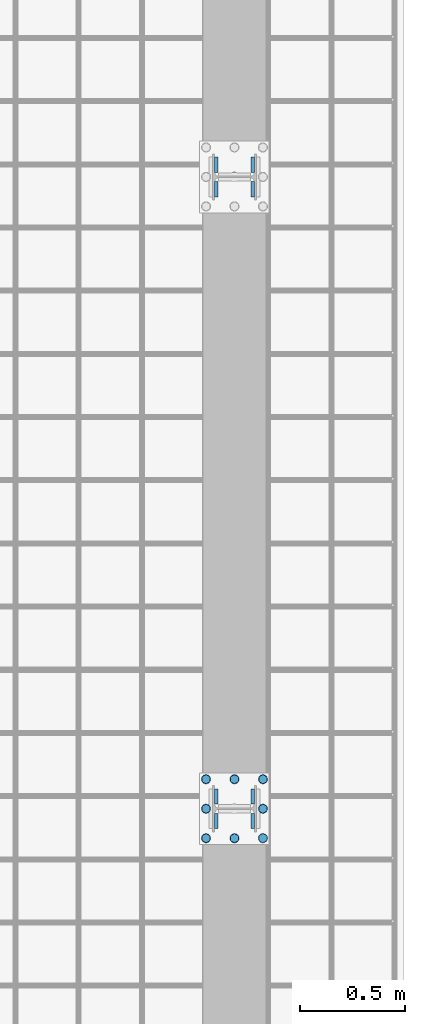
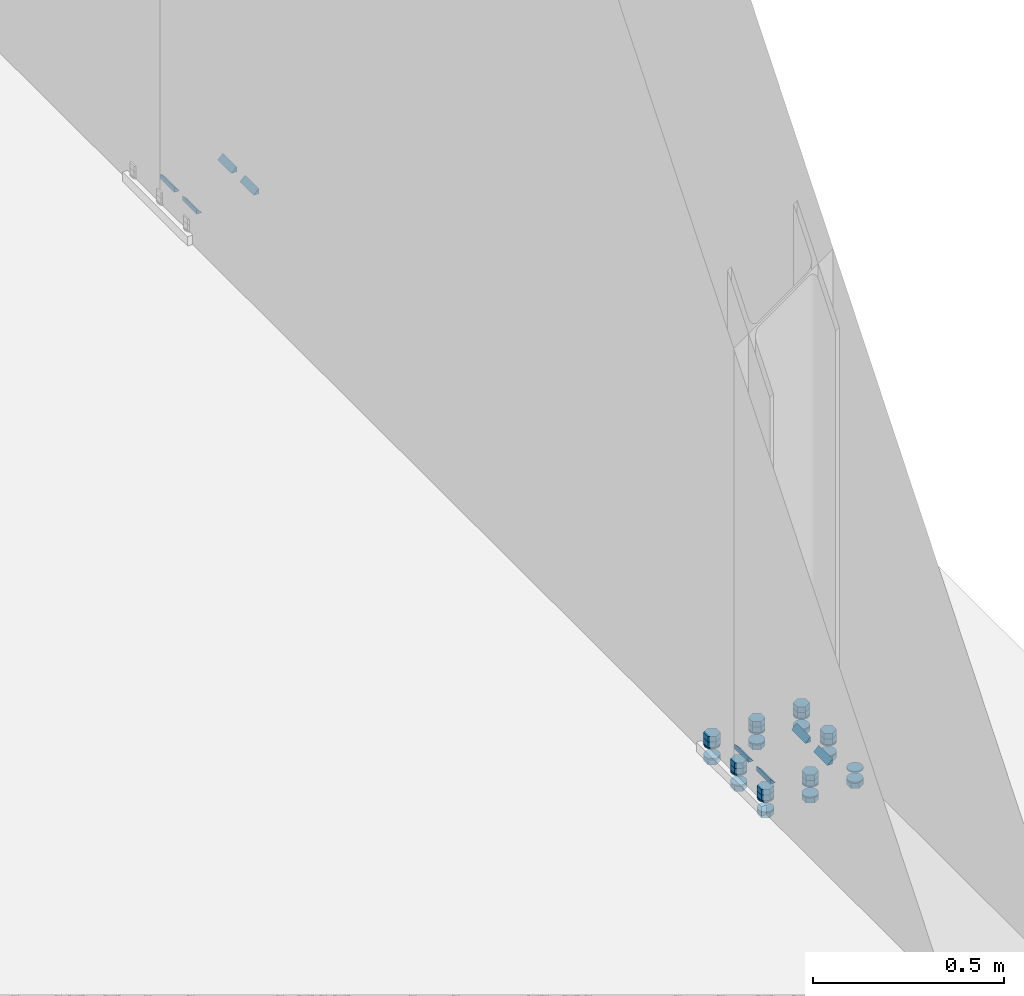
# One storey, part 17 of 29: 38 mechanical fasteners, 12 fasteners.
"""IFC4 building model written with IfcOpenShell, lengths in metres."""

import ifcopenshell
import ifcopenshell.guid

model = None  # the IFC model being written
_history = None  # IfcOwnerHistory: only IFC2X3 demands one
_inside = {}  # id of a spatial element -> (the spatial element, [elements in it])
_under = {}  # id of a project, library or spatial element -> (it, [spatial elements below it])
_declared = {}  # id of a project -> (the project, [libraries it declares])
_typed = {}  # id of a type object -> (the type object, [elements of that type])
_made_of = {}  # id of a material, layer set ... -> (it, [elements and type objects made of it])


def new_model(schema):
    """Start an empty IFC model of exactly this schema.

    Asked for "IFC4X3", IfcOpenShell would pick the latest addendum, in which some entities
    have other attributes; the version numbers below select the first issue.
    IFC2X3 requires an IfcOwnerHistory on every rooted entity: one is made here for all.
    """
    global model, _history
    if schema == "IFC4X3":
        model = ifcopenshell.file(schema_version=(4, 3, 0, 0))
    else:
        model = ifcopenshell.file(schema=schema)
    _inside.clear()
    _under.clear()
    _declared.clear()
    _typed.clear()
    _made_of.clear()
    _history = None
    if model.schema == "IFC2X3":
        org = make("IfcOrganization", Name="unknown")
        user = make(
            "IfcPersonAndOrganization",
            ThePerson=make("IfcPerson", FamilyName="unknown"),
            TheOrganization=org,
        )
        app = make(
            "IfcApplication",
            ApplicationDeveloper=org,
            Version="unknown",
            ApplicationFullName="unknown",
            ApplicationIdentifier="unknown",
        )
        _history = make(
            "IfcOwnerHistory",
            OwningUser=user,
            OwningApplication=app,
            ChangeAction="ADDED",
            CreationDate=0,
        )
    return model


def make(cls, **values):
    """One entity of the class cls with the attributes given. An attribute that is None is left unset."""
    return model.create_entity(
        cls, **{name: value for name, value in values.items() if value is not None}
    )


def rooted(cls, **values):
    """An entity with a GlobalId (a new one), such as an element, a storey or a relation."""
    return make(cls, GlobalId=ifcopenshell.guid.new(), OwnerHistory=_history, **values)


def si_unit(unit_type, name, prefix=None):
    """IfcSIUnit, for example si_unit("LENGTHUNIT", "METRE", prefix="MILLI")."""
    return make("IfcSIUnit", UnitType=unit_type, Prefix=prefix, Name=name)


def assignment(units):
    """IfcUnitAssignment: the units of a project."""
    return None if units is None else make("IfcUnitAssignment", Units=units)


def point(xyz):
    """IfcCartesianPoint."""
    return None if xyz is None else make("IfcCartesianPoint", Coordinates=xyz)


def direction(xyz):
    """IfcDirection."""
    return None if xyz is None else make("IfcDirection", DirectionRatios=xyz)


def frame(location, z_axis=None, x_axis=None):
    """IfcAxis2Placement3D, a coordinate frame: its origin and axes. An axis left out is left unset."""
    return make(
        "IfcAxis2Placement3D",
        Location=point(location),
        Axis=direction(z_axis),
        RefDirection=direction(x_axis),
    )


def origin_with_axes():
    """The frame at (0, 0, 0) with the z axis (0, 0, 1) and the x axis (1, 0, 0) written out."""
    return frame((0.0, 0.0, 0.0), z_axis=(0.0, 0.0, 1.0), x_axis=(1.0, 0.0, 0.0))


def place(relative_to, where):
    """IfcLocalPlacement: puts the frame where relative to a parent placement (None: the world)."""
    return make(
        "IfcLocalPlacement", PlacementRelTo=relative_to, RelativePlacement=where
    )


def context(
    kind, dimensions, precision=None, world=None, true_north=None, identifier=None
):
    """IfcGeometricRepresentationContext, for example the 3D "Model" context."""
    return make(
        "IfcGeometricRepresentationContext",
        ContextIdentifier=identifier,
        ContextType=kind,
        CoordinateSpaceDimension=dimensions,
        Precision=precision,
        WorldCoordinateSystem=world,
        TrueNorth=true_north,
    )


def project(units=None, contexts=None):
    """IfcProject with its units and contexts."""
    return rooted(
        "IfcProject",
        Name="project",
        RepresentationContexts=contexts,
        UnitsInContext=assignment(units),
    )


def spatial(cls, under=None, at=None, **own):
    """A site, building, storey or space (cls), placed at a placement, below another one or the project."""
    s = rooted(cls, ObjectPlacement=at, **own)
    if under is not None:
        _under.setdefault(under.id(), (under, []))[1].append(s)
    return s


def polyline(points):
    """IfcPolyline through the points."""
    return make("IfcPolyline", Points=[point(p) for p in points])


def outline(outer, holes=None, kind="AREA"):
    """IfcArbitraryClosedProfileDef: a profile drawn as a closed curve; with holes, ...WithVoids."""
    if holes is None:
        return make("IfcArbitraryClosedProfileDef", ProfileType=kind, OuterCurve=outer)
    return make(
        "IfcArbitraryProfileDefWithVoids",
        ProfileType=kind,
        OuterCurve=outer,
        InnerCurves=holes,
    )


def extrude(swept, where, along, depth):
    """IfcExtrudedAreaSolid: the profile swept, set in the frame where, extruded along a direction by depth."""
    return make(
        "IfcExtrudedAreaSolid",
        SweptArea=swept,
        Position=where,
        ExtrudedDirection=direction(along),
        Depth=depth,
    )


def shape(context_of_items, identifier, shape_type, items):
    """IfcShapeRepresentation: the items that make up one representation, for example the "Body"."""
    return make(
        "IfcShapeRepresentation",
        ContextOfItems=context_of_items,
        RepresentationIdentifier=identifier,
        RepresentationType=shape_type,
        Items=items,
    )


def made_of(thing, what):
    """Note that an element or type object is made of a material, layer set ...; save() writes the relation."""
    if what is not None:
        _made_of.setdefault(what.id(), (what, []))[1].append(thing)
    return thing


def type_object(cls, material=None, **own):
    """A type object (cls), such as IfcWallType, which elements share."""
    return made_of(rooted(cls, **own), material)


def element(
    cls,
    number,
    at=None,
    inside=None,
    cuts=None,
    type_object=None,
    material=None,
    context=None,
    identifier="Body",
    shape_type=None,
    held_by="IfcProductDefinitionShape",
    body=None,
    shapes=None,
    **own,
):
    """One element of the class cls, such as IfcWall. Its Tag is "e" and its number.

    at: its placement. inside: the storey or other place that contains it. cuts: it is an
    opening in that element (IfcRelVoidsElement). A single representation is given by context,
    identifier, shape_type and body (its items); several are given by shapes. held_by: the class
    of the entity that holds the representations. save() writes the other relations.
    """
    e = rooted(cls, Tag="e%d" % number, ObjectPlacement=at, **own)
    if body is not None:
        shapes = [shape(context, identifier, shape_type, body)]
    if shapes is not None:
        e.Representation = make(held_by, Representations=shapes)
    if inside is not None:
        _inside.setdefault(inside.id(), (inside, []))[1].append(e)
    if cuts is not None:
        rooted(
            "IfcRelVoidsElement", RelatingBuildingElement=cuts, RelatedOpeningElement=e
        )
    if type_object is not None:
        _typed.setdefault(type_object.id(), (type_object, []))[1].append(e)
    return made_of(e, material)


def aggregate(whole, parts):
    """IfcRelAggregates: a whole, such as a stair, and the parts it consists of."""
    return rooted("IfcRelAggregates", RelatingObject=whole, RelatedObjects=parts)


def save(model, path):
    """Write the relations noted so far, then the file.

    IfcRelAggregates (storeys below a building ...), IfcRelContainedInSpatialStructure (elements
    in a storey), IfcRelDefinesByType, IfcRelAssociatesMaterial and IfcRelDeclares: one each for
    every whole, place, type object, material and project.
    """
    for whole, parts in _under.values():
        aggregate(whole, parts)
    for where, things in _inside.values():
        rooted(
            "IfcRelContainedInSpatialStructure",
            RelatedElements=things,
            RelatingStructure=where,
        )
    for kind, things in _typed.values():
        rooted("IfcRelDefinesByType", RelatedObjects=things, RelatingType=kind)
    for what, things in _made_of.values():
        rooted("IfcRelAssociatesMaterial", RelatedObjects=things, RelatingMaterial=what)
    for by, libraries in _declared.values():
        rooted("IfcRelDeclares", RelatingContext=by, RelatedDefinitions=libraries)
    model.write(path)


model = new_model("IFC4")

# Units and contexts
model_context = context("Model", 3, precision=1e-05, world=origin_with_axes())
ifc_project = project(units=[si_unit("LENGTHUNIT", "METRE"), si_unit("AREAUNIT", "SQUARE_METRE"), si_unit("VOLUMEUNIT", "CUBIC_METRE"), si_unit("MASSUNIT", "GRAM", prefix="KILO"), si_unit("TIMEUNIT", "SECOND"), si_unit("PLANEANGLEUNIT", "RADIAN"), si_unit("SOLIDANGLEUNIT", "STERADIAN"), si_unit("THERMODYNAMICTEMPERATUREUNIT", "DEGREE_CELSIUS")], contexts=[model_context])

# Site, building, storey
placement_1 = place(None, origin_with_axes())
site = spatial("IfcSite", under=ifc_project, at=placement_1, Name="Italia", CompositionType="ELEMENT")
building = spatial("IfcBuilding", under=site, at=placement_1, Name="Capannone", CompositionType="ELEMENT")
storey = spatial("IfcBuildingStorey", under=building, at=placement_1, Name="Storey 0", CompositionType="ELEMENT", Elevation=0.0)

# Fasteners
fastener_type_1 = type_object("IfcFastenerType", Name="Collegamenti 0001_0101 0002_0102 0003_0103 0004_0104 0005_0105 0006_0106 0007_0107 0008_0108 0009_0109 0010_0110 0011_0111 0012_0112", PredefinedType="WELD")
placement_2 = place(placement_1, origin_with_axes())
fastener_1_placement = place(placement_2, origin_with_axes())
element("IfcFastener", 1, at=fastener_1_placement, inside=storey, type_object=fastener_type_1, Name="Collegamenti 0001_0101 0002_0102 0003_0103 0004_0104 0005_0105 0006_0106 0007_0107 0008_0108 0009_0109 0010_0110 0011_0111 0012_0112", context=model_context, shape_type="SweptSolid", body=[
    extrude(outline(polyline([(0.0, 0.0), (0.0156889, 0.0161734), (0.0156889, 0.0), (0.0, 0.0)])), frame((13.9216, 3.02145, 0.02995), z_axis=(0.0, 1.0, 0.0), x_axis=(-1.0, 0.0, 0.0)), (0.0, 0.0, 1.0), 0.0725999),
])
fastener_type_2 = type_object("IfcFastenerType", Name="Collegamenti 0001_0101 0002_0102 0003_0103 0004_0104 0005_0105 0006_0106 0007_0107 0008_0108 0009_0109 0010_0110 0011_0111 0012_0112", PredefinedType="WELD")
fastener_2_placement = place(placement_2, origin_with_axes())
element("IfcFastener", 2, at=fastener_2_placement, inside=storey, type_object=fastener_type_2, Name="Collegamenti 0001_0101 0002_0102 0003_0103 0004_0104 0005_0105 0006_0106 0007_0107 0008_0108 0009_0109 0010_0110 0011_0111 0012_0112", context=model_context, shape_type="SweptSolid", body=[
    extrude(outline(polyline([(0.0, 0.0), (0.0156889, 0.0161734), (0.0156889, 0.0), (0.0, 0.0)])), frame((14.0784, 3.09405, 0.02995), z_axis=(0.0, -1.0, 0.0), x_axis=(1.0, 0.0, 0.0)), (0.0, 0.0, 1.0), 0.0725999),
])
fastener_type_3 = type_object("IfcFastenerType", Name="Collegamenti 0001_0101 0002_0102 0003_0103 0004_0104 0005_0105 0006_0106 0007_0107 0008_0108 0009_0109 0010_0110 0011_0111 0012_0112", PredefinedType="WELD")
fastener_3_placement = place(placement_2, origin_with_axes())
element("IfcFastener", 3, at=fastener_3_placement, inside=storey, type_object=fastener_type_3, Name="Collegamenti 0001_0101 0002_0102 0003_0103 0004_0104 0005_0105 0006_0106 0007_0107 0008_0108 0009_0109 0010_0110 0011_0111 0012_0112", context=model_context, shape_type="SweptSolid", body=[
    extrude(outline(polyline([(0.0, 0.0), (0.0156889, 0.0161734), (0.0156889, 0.0), (0.0, 0.0)])), frame((14.0784, 2.97855, 0.02995), z_axis=(0.0, -1.0, 0.0), x_axis=(1.0, 0.0, 0.0)), (0.0, 0.0, 1.0), 0.0725999),
])
fastener_type_4 = type_object("IfcFastenerType", Name="Collegamenti 0001_0101 0002_0102 0003_0103 0004_0104 0005_0105 0006_0106 0007_0107 0008_0108 0009_0109 0010_0110 0011_0111 0012_0112", PredefinedType="WELD")
fastener_4_placement = place(placement_2, origin_with_axes())
element("IfcFastener", 4, at=fastener_4_placement, inside=storey, type_object=fastener_type_4, Name="Collegamenti 0001_0101 0002_0102 0003_0103 0004_0104 0005_0105 0006_0106 0007_0107 0008_0108 0009_0109 0010_0110 0011_0111 0012_0112", context=model_context, shape_type="SweptSolid", body=[
    extrude(outline(polyline([(0.0, 0.0), (0.0156889, 0.0161734), (0.0156889, 0.0), (0.0, 0.0)])), frame((13.9216, 2.90595, 0.02995), z_axis=(0.0, 1.0, 0.0), x_axis=(-1.0, 0.0, 0.0)), (0.0, 0.0, 1.0), 0.0725999),
])
fastener_type_5 = type_object("IfcFastenerType", Name="Collegamenti 0001_0101 0002_0102 0003_0103 0004_0104 0005_0105 0006_0106 0007_0107 0008_0108 0009_0109 0010_0110 0011_0111 0012_0112", PredefinedType="WELD")
fastener_5_placement = place(placement_2, origin_with_axes())
element("IfcFastener", 5, at=fastener_5_placement, inside=storey, type_object=fastener_type_5, Name="Collegamenti 0001_0101 0002_0102 0003_0103 0004_0104 0005_0105 0006_0106 0007_0107 0008_0108 0009_0109 0010_0110 0011_0111 0012_0112", context=model_context, shape_type="SweptSolid", body=[
    extrude(outline(polyline([(0.0, 0.0), (0.0156889, 0.0161734), (0.0156889, 0.0), (0.0, 0.0)])), frame((13.9216, 3.02145, 0.02995), z_axis=(0.0, 1.0, 0.0), x_axis=(-1.0, 0.0, 0.0)), (0.0, 0.0, 1.0), 0.0725999),
])
fastener_type_6 = type_object("IfcFastenerType", Name="Collegamenti 0001_0101 0002_0102 0003_0103 0004_0104 0005_0105 0006_0106 0007_0107 0008_0108 0009_0109 0010_0110 0011_0111 0012_0112", PredefinedType="WELD")
fastener_6_placement = place(placement_2, origin_with_axes())
element("IfcFastener", 6, at=fastener_6_placement, inside=storey, type_object=fastener_type_6, Name="Collegamenti 0001_0101 0002_0102 0003_0103 0004_0104 0005_0105 0006_0106 0007_0107 0008_0108 0009_0109 0010_0110 0011_0111 0012_0112", context=model_context, shape_type="SweptSolid", body=[
    extrude(outline(polyline([(0.0, 0.0), (0.0156889, 0.0161734), (0.0156889, 0.0), (0.0, 0.0)])), frame((14.0784, 3.09405, 0.02995), z_axis=(0.0, -1.0, 0.0), x_axis=(1.0, 0.0, 0.0)), (0.0, 0.0, 1.0), 0.0725999),
])
fastener_type_7 = type_object("IfcFastenerType", Name="Collegamenti 0001_0101 0002_0102 0003_0103 0004_0104 0005_0105 0006_0106 0007_0107 0008_0108 0009_0109 0010_0110 0011_0111 0012_0112", PredefinedType="WELD")
fastener_7_placement = place(placement_2, origin_with_axes())
element("IfcFastener", 7, at=fastener_7_placement, inside=storey, type_object=fastener_type_7, Name="Collegamenti 0001_0101 0002_0102 0003_0103 0004_0104 0005_0105 0006_0106 0007_0107 0008_0108 0009_0109 0010_0110 0011_0111 0012_0112", context=model_context, shape_type="SweptSolid", body=[
    extrude(outline(polyline([(0.0, 0.0), (0.0156889, 0.0161734), (0.0156889, 0.0), (0.0, 0.0)])), frame((14.0784, 2.97855, 0.02995), z_axis=(0.0, -1.0, 0.0), x_axis=(1.0, 0.0, 0.0)), (0.0, 0.0, 1.0), 0.0725999),
])
fastener_type_8 = type_object("IfcFastenerType", Name="Collegamenti 0001_0101 0002_0102 0003_0103 0004_0104 0005_0105 0006_0106 0007_0107 0008_0108 0009_0109 0010_0110 0011_0111 0012_0112", PredefinedType="WELD")
fastener_8_placement = place(placement_2, origin_with_axes())
element("IfcFastener", 8, at=fastener_8_placement, inside=storey, type_object=fastener_type_8, Name="Collegamenti 0001_0101 0002_0102 0003_0103 0004_0104 0005_0105 0006_0106 0007_0107 0008_0108 0009_0109 0010_0110 0011_0111 0012_0112", context=model_context, shape_type="SweptSolid", body=[
    extrude(outline(polyline([(0.0, 0.0), (0.0156889, 0.0161734), (0.0156889, 0.0), (0.0, 0.0)])), frame((13.9216, 2.90595, 0.02995), z_axis=(0.0, 1.0, 0.0), x_axis=(-1.0, 0.0, 0.0)), (0.0, 0.0, 1.0), 0.0725999),
])

# Mechanical fasteners
mechanical_fastener_type_1 = type_object("IfcMechanicalFastenerType", Name="Collegamenti 0001_0101 0002_0102 0003_0103 0004_0104 0005_0105 0006_0106 0007_0107 0008_0108 0009_0109 0010_0110 0011_0111 0012_0112", PredefinedType="BOLT")
mechanical_fastener_1_placement = place(placement_2, origin_with_axes())
element("IfcMechanicalFastener", 9, at=mechanical_fastener_1_placement, inside=storey, type_object=mechanical_fastener_type_1, Name="Collegamenti 0001_0101 0002_0102 0003_0103 0004_0104 0005_0105 0006_0106 0007_0107 0008_0108 0009_0109 0010_0110 0011_0111 0012_0112", NominalDiameter=0.0219999, context=model_context, shape_type="SweptSolid", body=[
    extrude(outline(polyline([(0.0, 0.0), (-0.0220001, 0.0), (-0.033, 0.0190525), (-0.0220001, 0.038105), (0.0, 0.038105), (0.0109999, 0.0190525), (0.0, 0.0)])), frame((14.1541, 2.871, -0.0216), z_axis=(0.0, 0.0, 1.0), x_axis=(0.0, 1.0, 0.0)), (0.0, 0.0, 1.0), 0.0176),
])
mechanical_fastener_type_2 = type_object("IfcMechanicalFastenerType", Name="Collegamenti 0001_0101 0002_0102 0003_0103 0004_0104 0005_0105 0006_0106 0007_0107 0008_0108 0009_0109 0010_0110 0011_0111 0012_0112", PredefinedType="BOLT")
mechanical_fastener_2_placement = place(placement_2, origin_with_axes())
element("IfcMechanicalFastener", 10, at=mechanical_fastener_2_placement, inside=storey, type_object=mechanical_fastener_type_2, Name="Collegamenti 0001_0101 0002_0102 0003_0103 0004_0104 0005_0105 0006_0106 0007_0107 0008_0108 0009_0109 0010_0110 0011_0111 0012_0112", NominalDiameter=0.044, context=model_context, shape_type="SweptSolid", body=[
    extrude(outline(polyline([(0.0, 0.0), (-0.000749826, -0.00569439), (-0.00294757, -0.0109997), (-0.00644374, -0.0155563), (-0.0110002, -0.0190525), (-0.0163062, -0.0212507), (-0.0220001, -0.0220003), (-0.027694, -0.0212507), (-0.033, -0.0190525), (-0.0375564, -0.0155563), (-0.0410526, -0.0109997), (-0.0432506, -0.00569439), (-0.0440001, 0.0), (-0.0432503, 0.00569439), (-0.0410526, 0.0109997), (-0.0375564, 0.0155563), (-0.033, 0.0190525), (-0.027694, 0.0212507), (-0.0220001, 0.0220003), (-0.0163062, 0.0212507), (-0.0110002, 0.0190525), (-0.00644374, 0.0155563), (-0.00294757, 0.0109997), (-0.000749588, 0.00569439), (0.0, 0.0)])), frame((14.135, 2.882, 0.03), z_axis=(0.0, 0.0, 1.0), x_axis=(0.0, 1.0, 0.0)), (0.0, 0.0, 1.0), 0.004),
])
mechanical_fastener_type_3 = type_object("IfcMechanicalFastenerType", Name="Collegamenti 0001_0101 0002_0102 0003_0103 0004_0104 0005_0105 0006_0106 0007_0107 0008_0108 0009_0109 0010_0110 0011_0111 0012_0112", PredefinedType="BOLT")
mechanical_fastener_3_placement = place(placement_2, origin_with_axes())
element("IfcMechanicalFastener", 11, at=mechanical_fastener_3_placement, inside=storey, type_object=mechanical_fastener_type_3, Name="Collegamenti 0001_0101 0002_0102 0003_0103 0004_0104 0005_0105 0006_0106 0007_0107 0008_0108 0009_0109 0010_0110 0011_0111 0012_0112", NominalDiameter=0.044, context=model_context, shape_type="SweptSolid", body=[
    extrude(outline(polyline([(0.0, 0.0), (-0.000749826, -0.00569439), (-0.00294757, -0.0109997), (-0.00644374, -0.0155563), (-0.0110002, -0.0190525), (-0.0163062, -0.0212507), (-0.0220001, -0.0220003), (-0.027694, -0.0212507), (-0.033, -0.0190525), (-0.0375564, -0.0155563), (-0.0410526, -0.0109997), (-0.0432506, -0.00569439), (-0.0440001, 0.0), (-0.0432503, 0.00569439), (-0.0410526, 0.0109997), (-0.0375564, 0.0155563), (-0.033, 0.0190525), (-0.027694, 0.0212507), (-0.0220001, 0.0220003), (-0.0163062, 0.0212507), (-0.0110002, 0.0190525), (-0.00644374, 0.0155563), (-0.00294757, 0.0109997), (-0.000749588, 0.00569439), (0.0, 0.0)])), frame((14.135, 2.882, -0.004), z_axis=(0.0, 0.0, 1.0), x_axis=(0.0, 1.0, 0.0)), (0.0, 0.0, 1.0), 0.004),
])
mechanical_fastener_type_4 = type_object("IfcMechanicalFastenerType", Name="Collegamenti 0001_0101 0002_0102 0003_0103 0004_0104 0005_0105 0006_0106 0007_0107 0008_0108 0009_0109 0010_0110 0011_0111 0012_0112", PredefinedType="BOLT")
mechanical_fastener_4_placement = place(placement_2, origin_with_axes())
element("IfcMechanicalFastener", 12, at=mechanical_fastener_4_placement, inside=storey, type_object=mechanical_fastener_type_4, Name="Collegamenti 0001_0101 0002_0102 0003_0103 0004_0104 0005_0105 0006_0106 0007_0107 0008_0108 0009_0109 0010_0110 0011_0111 0012_0112", NominalDiameter=0.0219998, context=model_context, shape_type="SweptSolid", body=[
    extrude(outline(polyline([(0.0, 0.0), (-0.0219998, 0.0), (-0.033, 0.0190525), (-0.0219998, 0.038105), (0.0, 0.038105), (0.0110002, 0.0190525), (0.0, 0.0)])), frame((14.1541, 3.011, 0.034), z_axis=(0.0, 0.0, 1.0), x_axis=(0.0, 1.0, 0.0)), (0.0, 0.0, 1.0), 0.0176),
])
mechanical_fastener_type_5 = type_object("IfcMechanicalFastenerType", Name="Collegamenti 0001_0101 0002_0102 0003_0103 0004_0104 0005_0105 0006_0106 0007_0107 0008_0108 0009_0109 0010_0110 0011_0111 0012_0112", PredefinedType="BOLT")
mechanical_fastener_5_placement = place(placement_2, origin_with_axes())
element("IfcMechanicalFastener", 13, at=mechanical_fastener_5_placement, inside=storey, type_object=mechanical_fastener_type_5, Name="Collegamenti 0001_0101 0002_0102 0003_0103 0004_0104 0005_0105 0006_0106 0007_0107 0008_0108 0009_0109 0010_0110 0011_0111 0012_0112", NominalDiameter=0.0219998, context=model_context, shape_type="SweptSolid", body=[
    extrude(outline(polyline([(0.0, 0.0), (-0.0219998, 0.0), (-0.033, 0.0190525), (-0.0219998, 0.038105), (0.0, 0.038105), (0.0110002, 0.0190525), (0.0, 0.0)])), frame((14.1541, 3.011, 0.0516), z_axis=(0.0, 0.0, 1.0), x_axis=(0.0, 1.0, 0.0)), (0.0, 0.0, 1.0), 0.0176),
])
mechanical_fastener_type_6 = type_object("IfcMechanicalFastenerType", Name="Collegamenti 0001_0101 0002_0102 0003_0103 0004_0104 0005_0105 0006_0106 0007_0107 0008_0108 0009_0109 0010_0110 0011_0111 0012_0112", PredefinedType="BOLT")
mechanical_fastener_6_placement = place(placement_2, origin_with_axes())
element("IfcMechanicalFastener", 14, at=mechanical_fastener_6_placement, inside=storey, type_object=mechanical_fastener_type_6, Name="Collegamenti 0001_0101 0002_0102 0003_0103 0004_0104 0005_0105 0006_0106 0007_0107 0008_0108 0009_0109 0010_0110 0011_0111 0012_0112", NominalDiameter=0.0219998, context=model_context, shape_type="SweptSolid", body=[
    extrude(outline(polyline([(0.0, 0.0), (-0.0219998, 0.0), (-0.033, 0.0190525), (-0.0219998, 0.038105), (0.0, 0.038105), (0.0110002, 0.0190525), (0.0, 0.0)])), frame((14.1541, 3.011, -0.0216), z_axis=(0.0, 0.0, 1.0), x_axis=(0.0, 1.0, 0.0)), (0.0, 0.0, 1.0), 0.0176),
])
mechanical_fastener_type_7 = type_object("IfcMechanicalFastenerType", Name="Collegamenti 0001_0101 0002_0102 0003_0103 0004_0104 0005_0105 0006_0106 0007_0107 0008_0108 0009_0109 0010_0110 0011_0111 0012_0112", PredefinedType="BOLT")
mechanical_fastener_7_placement = place(placement_2, origin_with_axes())
element("IfcMechanicalFastener", 15, at=mechanical_fastener_7_placement, inside=storey, type_object=mechanical_fastener_type_7, Name="Collegamenti 0001_0101 0002_0102 0003_0103 0004_0104 0005_0105 0006_0106 0007_0107 0008_0108 0009_0109 0010_0110 0011_0111 0012_0112", NominalDiameter=0.044, context=model_context, shape_type="SweptSolid", body=[
    extrude(outline(polyline([(0.0, 0.0), (-0.000749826, -0.00569439), (-0.00294757, -0.0109997), (-0.00644374, -0.0155563), (-0.0110002, -0.0190525), (-0.0163062, -0.0212507), (-0.0220001, -0.0220003), (-0.027694, -0.0212507), (-0.033, -0.0190525), (-0.0375564, -0.0155563), (-0.0410526, -0.0109997), (-0.0432506, -0.00569439), (-0.0440001, 0.0), (-0.0432503, 0.00569439), (-0.0410526, 0.0109997), (-0.0375564, 0.0155563), (-0.033, 0.0190525), (-0.027694, 0.0212507), (-0.0220001, 0.0220003), (-0.0163062, 0.0212507), (-0.0110002, 0.0190525), (-0.00644374, 0.0155563), (-0.00294757, 0.0109997), (-0.000749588, 0.00569439), (0.0, 0.0)])), frame((14.135, 3.022, 0.03), z_axis=(0.0, 0.0, 1.0), x_axis=(0.0, 1.0, 0.0)), (0.0, 0.0, 1.0), 0.004),
])
mechanical_fastener_type_8 = type_object("IfcMechanicalFastenerType", Name="Collegamenti 0001_0101 0002_0102 0003_0103 0004_0104 0005_0105 0006_0106 0007_0107 0008_0108 0009_0109 0010_0110 0011_0111 0012_0112", PredefinedType="BOLT")
mechanical_fastener_8_placement = place(placement_2, origin_with_axes())
element("IfcMechanicalFastener", 16, at=mechanical_fastener_8_placement, inside=storey, type_object=mechanical_fastener_type_8, Name="Collegamenti 0001_0101 0002_0102 0003_0103 0004_0104 0005_0105 0006_0106 0007_0107 0008_0108 0009_0109 0010_0110 0011_0111 0012_0112", NominalDiameter=0.044, context=model_context, shape_type="SweptSolid", body=[
    extrude(outline(polyline([(0.0, 0.0), (-0.000749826, -0.00569439), (-0.00294757, -0.0109997), (-0.00644374, -0.0155563), (-0.0110002, -0.0190525), (-0.0163062, -0.0212507), (-0.0220001, -0.0220003), (-0.027694, -0.0212507), (-0.033, -0.0190525), (-0.0375564, -0.0155563), (-0.0410526, -0.0109997), (-0.0432506, -0.00569439), (-0.0440001, 0.0), (-0.0432503, 0.00569439), (-0.0410526, 0.0109997), (-0.0375564, 0.0155563), (-0.033, 0.0190525), (-0.027694, 0.0212507), (-0.0220001, 0.0220003), (-0.0163062, 0.0212507), (-0.0110002, 0.0190525), (-0.00644374, 0.0155563), (-0.00294757, 0.0109997), (-0.000749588, 0.00569439), (0.0, 0.0)])), frame((14.135, 3.022, -0.004), z_axis=(0.0, 0.0, 1.0), x_axis=(0.0, 1.0, 0.0)), (0.0, 0.0, 1.0), 0.004),
])
mechanical_fastener_type_9 = type_object("IfcMechanicalFastenerType", Name="Collegamenti 0001_0101 0002_0102 0003_0103 0004_0104 0005_0105 0006_0106 0007_0107 0008_0108 0009_0109 0010_0110 0011_0111 0012_0112", PredefinedType="BOLT")
mechanical_fastener_9_placement = place(placement_2, origin_with_axes())
element("IfcMechanicalFastener", 17, at=mechanical_fastener_9_placement, inside=storey, type_object=mechanical_fastener_type_9, Name="Collegamenti 0001_0101 0002_0102 0003_0103 0004_0104 0005_0105 0006_0106 0007_0107 0008_0108 0009_0109 0010_0110 0011_0111 0012_0112", NominalDiameter=0.0219999, context=model_context, shape_type="SweptSolid", body=[
    extrude(outline(polyline([(0.0, 0.0), (-0.0220001, 0.0), (-0.033, 0.0190525), (-0.0220001, 0.038105), (0.0, 0.038105), (0.0109999, 0.0190525), (0.0, 0.0)])), frame((14.1541, 3.151, 0.034), z_axis=(0.0, 0.0, 1.0), x_axis=(0.0, 1.0, 0.0)), (0.0, 0.0, 1.0), 0.0176),
])
mechanical_fastener_type_10 = type_object("IfcMechanicalFastenerType", Name="Collegamenti 0001_0101 0002_0102 0003_0103 0004_0104 0005_0105 0006_0106 0007_0107 0008_0108 0009_0109 0010_0110 0011_0111 0012_0112", PredefinedType="BOLT")
mechanical_fastener_10_placement = place(placement_2, origin_with_axes())
element("IfcMechanicalFastener", 18, at=mechanical_fastener_10_placement, inside=storey, type_object=mechanical_fastener_type_10, Name="Collegamenti 0001_0101 0002_0102 0003_0103 0004_0104 0005_0105 0006_0106 0007_0107 0008_0108 0009_0109 0010_0110 0011_0111 0012_0112", NominalDiameter=0.0219999, context=model_context, shape_type="SweptSolid", body=[
    extrude(outline(polyline([(0.0, 0.0), (-0.0220001, 0.0), (-0.033, 0.0190525), (-0.0220001, 0.038105), (0.0, 0.038105), (0.0109999, 0.0190525), (0.0, 0.0)])), frame((14.1541, 3.151, 0.0516), z_axis=(0.0, 0.0, 1.0), x_axis=(0.0, 1.0, 0.0)), (0.0, 0.0, 1.0), 0.0176),
])
mechanical_fastener_type_11 = type_object("IfcMechanicalFastenerType", Name="Collegamenti 0001_0101 0002_0102 0003_0103 0004_0104 0005_0105 0006_0106 0007_0107 0008_0108 0009_0109 0010_0110 0011_0111 0012_0112", PredefinedType="BOLT")
mechanical_fastener_11_placement = place(placement_2, origin_with_axes())
element("IfcMechanicalFastener", 19, at=mechanical_fastener_11_placement, inside=storey, type_object=mechanical_fastener_type_11, Name="Collegamenti 0001_0101 0002_0102 0003_0103 0004_0104 0005_0105 0006_0106 0007_0107 0008_0108 0009_0109 0010_0110 0011_0111 0012_0112", NominalDiameter=0.0219999, context=model_context, shape_type="SweptSolid", body=[
    extrude(outline(polyline([(0.0, 0.0), (-0.0220001, 0.0), (-0.033, 0.0190525), (-0.0220001, 0.038105), (0.0, 0.038105), (0.0109999, 0.0190525), (0.0, 0.0)])), frame((14.1541, 3.151, -0.0216), z_axis=(0.0, 0.0, 1.0), x_axis=(0.0, 1.0, 0.0)), (0.0, 0.0, 1.0), 0.0176),
])
mechanical_fastener_type_12 = type_object("IfcMechanicalFastenerType", Name="Collegamenti 0001_0101 0002_0102 0003_0103 0004_0104 0005_0105 0006_0106 0007_0107 0008_0108 0009_0109 0010_0110 0011_0111 0012_0112", PredefinedType="BOLT")
mechanical_fastener_12_placement = place(placement_2, origin_with_axes())
element("IfcMechanicalFastener", 20, at=mechanical_fastener_12_placement, inside=storey, type_object=mechanical_fastener_type_12, Name="Collegamenti 0001_0101 0002_0102 0003_0103 0004_0104 0005_0105 0006_0106 0007_0107 0008_0108 0009_0109 0010_0110 0011_0111 0012_0112", NominalDiameter=0.044, context=model_context, shape_type="SweptSolid", body=[
    extrude(outline(polyline([(0.0, 0.0), (-0.000749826, -0.00569439), (-0.00294757, -0.0109997), (-0.00644374, -0.0155563), (-0.0110002, -0.0190525), (-0.0163062, -0.0212507), (-0.0220001, -0.0220003), (-0.027694, -0.0212507), (-0.033, -0.0190525), (-0.0375564, -0.0155563), (-0.0410526, -0.0109997), (-0.0432506, -0.00569439), (-0.0440001, 0.0), (-0.0432503, 0.00569439), (-0.0410526, 0.0109997), (-0.0375564, 0.0155563), (-0.033, 0.0190525), (-0.027694, 0.0212507), (-0.0220001, 0.0220003), (-0.0163062, 0.0212507), (-0.0110002, 0.0190525), (-0.00644374, 0.0155563), (-0.00294757, 0.0109997), (-0.000749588, 0.00569439), (0.0, 0.0)])), frame((14.135, 3.162, 0.03), z_axis=(0.0, 0.0, 1.0), x_axis=(0.0, 1.0, 0.0)), (0.0, 0.0, 1.0), 0.004),
])
mechanical_fastener_type_13 = type_object("IfcMechanicalFastenerType", Name="Collegamenti 0001_0101 0002_0102 0003_0103 0004_0104 0005_0105 0006_0106 0007_0107 0008_0108 0009_0109 0010_0110 0011_0111 0012_0112", PredefinedType="BOLT")
mechanical_fastener_13_placement = place(placement_2, origin_with_axes())
element("IfcMechanicalFastener", 21, at=mechanical_fastener_13_placement, inside=storey, type_object=mechanical_fastener_type_13, Name="Collegamenti 0001_0101 0002_0102 0003_0103 0004_0104 0005_0105 0006_0106 0007_0107 0008_0108 0009_0109 0010_0110 0011_0111 0012_0112", NominalDiameter=0.044, context=model_context, shape_type="SweptSolid", body=[
    extrude(outline(polyline([(0.0, 0.0), (-0.000749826, -0.00569439), (-0.00294757, -0.0109997), (-0.00644374, -0.0155563), (-0.0110002, -0.0190525), (-0.0163062, -0.0212507), (-0.0220001, -0.0220003), (-0.027694, -0.0212507), (-0.033, -0.0190525), (-0.0375564, -0.0155563), (-0.0410526, -0.0109997), (-0.0432506, -0.00569439), (-0.0440001, 0.0), (-0.0432503, 0.00569439), (-0.0410526, 0.0109997), (-0.0375564, 0.0155563), (-0.033, 0.0190525), (-0.027694, 0.0212507), (-0.0220001, 0.0220003), (-0.0163062, 0.0212507), (-0.0110002, 0.0190525), (-0.00644374, 0.0155563), (-0.00294757, 0.0109997), (-0.000749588, 0.00569439), (0.0, 0.0)])), frame((14.135, 3.162, -0.004), z_axis=(0.0, 0.0, 1.0), x_axis=(0.0, 1.0, 0.0)), (0.0, 0.0, 1.0), 0.004),
])
mechanical_fastener_type_14 = type_object("IfcMechanicalFastenerType", Name="Collegamenti 0001_0101 0002_0102 0003_0103 0004_0104 0005_0105 0006_0106 0007_0107 0008_0108 0009_0109 0010_0110 0011_0111 0012_0112", PredefinedType="BOLT")
mechanical_fastener_14_placement = place(placement_2, origin_with_axes())
element("IfcMechanicalFastener", 22, at=mechanical_fastener_14_placement, inside=storey, type_object=mechanical_fastener_type_14, Name="Collegamenti 0001_0101 0002_0102 0003_0103 0004_0104 0005_0105 0006_0106 0007_0107 0008_0108 0009_0109 0010_0110 0011_0111 0012_0112", NominalDiameter=0.0219999, context=model_context, shape_type="SweptSolid", body=[
    extrude(outline(polyline([(0.0, 0.0), (-0.0220001, 0.0), (-0.033, 0.0190525), (-0.0220001, 0.038105), (0.0, 0.038105), (0.0109999, 0.0190525), (0.0, 0.0)])), frame((14.0191, 2.871, 0.034), z_axis=(0.0, 0.0, 1.0), x_axis=(0.0, 1.0, 0.0)), (0.0, 0.0, 1.0), 0.0176),
])
mechanical_fastener_type_15 = type_object("IfcMechanicalFastenerType", Name="Collegamenti 0001_0101 0002_0102 0003_0103 0004_0104 0005_0105 0006_0106 0007_0107 0008_0108 0009_0109 0010_0110 0011_0111 0012_0112", PredefinedType="BOLT")
mechanical_fastener_15_placement = place(placement_2, origin_with_axes())
element("IfcMechanicalFastener", 23, at=mechanical_fastener_15_placement, inside=storey, type_object=mechanical_fastener_type_15, Name="Collegamenti 0001_0101 0002_0102 0003_0103 0004_0104 0005_0105 0006_0106 0007_0107 0008_0108 0009_0109 0010_0110 0011_0111 0012_0112", NominalDiameter=0.0219999, context=model_context, shape_type="SweptSolid", body=[
    extrude(outline(polyline([(0.0, 0.0), (-0.0220001, 0.0), (-0.033, 0.0190525), (-0.0220001, 0.038105), (0.0, 0.038105), (0.0109999, 0.0190525), (0.0, 0.0)])), frame((14.0191, 2.871, 0.0516), z_axis=(0.0, 0.0, 1.0), x_axis=(0.0, 1.0, 0.0)), (0.0, 0.0, 1.0), 0.0176),
])
mechanical_fastener_type_16 = type_object("IfcMechanicalFastenerType", Name="Collegamenti 0001_0101 0002_0102 0003_0103 0004_0104 0005_0105 0006_0106 0007_0107 0008_0108 0009_0109 0010_0110 0011_0111 0012_0112", PredefinedType="BOLT")
mechanical_fastener_16_placement = place(placement_2, origin_with_axes())
element("IfcMechanicalFastener", 24, at=mechanical_fastener_16_placement, inside=storey, type_object=mechanical_fastener_type_16, Name="Collegamenti 0001_0101 0002_0102 0003_0103 0004_0104 0005_0105 0006_0106 0007_0107 0008_0108 0009_0109 0010_0110 0011_0111 0012_0112", NominalDiameter=0.0219999, context=model_context, shape_type="SweptSolid", body=[
    extrude(outline(polyline([(0.0, 0.0), (-0.0220001, 0.0), (-0.033, 0.0190525), (-0.0220001, 0.038105), (0.0, 0.038105), (0.0109999, 0.0190525), (0.0, 0.0)])), frame((14.0191, 2.871, -0.0216), z_axis=(0.0, 0.0, 1.0), x_axis=(0.0, 1.0, 0.0)), (0.0, 0.0, 1.0), 0.0176),
])
mechanical_fastener_type_17 = type_object("IfcMechanicalFastenerType", Name="Collegamenti 0001_0101 0002_0102 0003_0103 0004_0104 0005_0105 0006_0106 0007_0107 0008_0108 0009_0109 0010_0110 0011_0111 0012_0112", PredefinedType="BOLT")
mechanical_fastener_17_placement = place(placement_2, origin_with_axes())
element("IfcMechanicalFastener", 25, at=mechanical_fastener_17_placement, inside=storey, type_object=mechanical_fastener_type_17, Name="Collegamenti 0001_0101 0002_0102 0003_0103 0004_0104 0005_0105 0006_0106 0007_0107 0008_0108 0009_0109 0010_0110 0011_0111 0012_0112", NominalDiameter=0.044, context=model_context, shape_type="SweptSolid", body=[
    extrude(outline(polyline([(0.0, 0.0), (-0.000749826, -0.00569439), (-0.00294757, -0.0109997), (-0.00644374, -0.0155563), (-0.0110002, -0.0190525), (-0.0163062, -0.0212507), (-0.0220001, -0.0220003), (-0.027694, -0.0212507), (-0.033, -0.0190525), (-0.0375564, -0.0155563), (-0.0410526, -0.0109997), (-0.0432506, -0.00569439), (-0.0440001, 0.0), (-0.0432503, 0.00569439), (-0.0410526, 0.0109997), (-0.0375564, 0.0155563), (-0.033, 0.0190525), (-0.027694, 0.0212507), (-0.0220001, 0.0220003), (-0.0163062, 0.0212507), (-0.0110002, 0.0190525), (-0.00644374, 0.0155563), (-0.00294757, 0.0109997), (-0.000749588, 0.00569439), (0.0, 0.0)])), frame((14.0, 2.882, 0.03), z_axis=(0.0, 0.0, 1.0), x_axis=(0.0, 1.0, 0.0)), (0.0, 0.0, 1.0), 0.004),
])
mechanical_fastener_type_18 = type_object("IfcMechanicalFastenerType", Name="Collegamenti 0001_0101 0002_0102 0003_0103 0004_0104 0005_0105 0006_0106 0007_0107 0008_0108 0009_0109 0010_0110 0011_0111 0012_0112", PredefinedType="BOLT")
mechanical_fastener_18_placement = place(placement_2, origin_with_axes())
element("IfcMechanicalFastener", 26, at=mechanical_fastener_18_placement, inside=storey, type_object=mechanical_fastener_type_18, Name="Collegamenti 0001_0101 0002_0102 0003_0103 0004_0104 0005_0105 0006_0106 0007_0107 0008_0108 0009_0109 0010_0110 0011_0111 0012_0112", NominalDiameter=0.044, context=model_context, shape_type="SweptSolid", body=[
    extrude(outline(polyline([(0.0, 0.0), (-0.000749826, -0.00569439), (-0.00294757, -0.0109997), (-0.00644374, -0.0155563), (-0.0110002, -0.0190525), (-0.0163062, -0.0212507), (-0.0220001, -0.0220003), (-0.027694, -0.0212507), (-0.033, -0.0190525), (-0.0375564, -0.0155563), (-0.0410526, -0.0109997), (-0.0432506, -0.00569439), (-0.0440001, 0.0), (-0.0432503, 0.00569439), (-0.0410526, 0.0109997), (-0.0375564, 0.0155563), (-0.033, 0.0190525), (-0.027694, 0.0212507), (-0.0220001, 0.0220003), (-0.0163062, 0.0212507), (-0.0110002, 0.0190525), (-0.00644374, 0.0155563), (-0.00294757, 0.0109997), (-0.000749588, 0.00569439), (0.0, 0.0)])), frame((14.0, 2.882, -0.004), z_axis=(0.0, 0.0, 1.0), x_axis=(0.0, 1.0, 0.0)), (0.0, 0.0, 1.0), 0.004),
])
mechanical_fastener_type_19 = type_object("IfcMechanicalFastenerType", Name="Collegamenti 0001_0101 0002_0102 0003_0103 0004_0104 0005_0105 0006_0106 0007_0107 0008_0108 0009_0109 0010_0110 0011_0111 0012_0112", PredefinedType="BOLT")
mechanical_fastener_19_placement = place(placement_2, origin_with_axes())
element("IfcMechanicalFastener", 27, at=mechanical_fastener_19_placement, inside=storey, type_object=mechanical_fastener_type_19, Name="Collegamenti 0001_0101 0002_0102 0003_0103 0004_0104 0005_0105 0006_0106 0007_0107 0008_0108 0009_0109 0010_0110 0011_0111 0012_0112", NominalDiameter=0.0219999, context=model_context, shape_type="SweptSolid", body=[
    extrude(outline(polyline([(0.0, 0.0), (-0.0220001, 0.0), (-0.033, 0.0190525), (-0.0220001, 0.038105), (0.0, 0.038105), (0.0109999, 0.0190525), (0.0, 0.0)])), frame((14.0191, 3.151, 0.034), z_axis=(0.0, 0.0, 1.0), x_axis=(0.0, 1.0, 0.0)), (0.0, 0.0, 1.0), 0.0176),
])
mechanical_fastener_type_20 = type_object("IfcMechanicalFastenerType", Name="Collegamenti 0001_0101 0002_0102 0003_0103 0004_0104 0005_0105 0006_0106 0007_0107 0008_0108 0009_0109 0010_0110 0011_0111 0012_0112", PredefinedType="BOLT")
mechanical_fastener_20_placement = place(placement_2, origin_with_axes())
element("IfcMechanicalFastener", 28, at=mechanical_fastener_20_placement, inside=storey, type_object=mechanical_fastener_type_20, Name="Collegamenti 0001_0101 0002_0102 0003_0103 0004_0104 0005_0105 0006_0106 0007_0107 0008_0108 0009_0109 0010_0110 0011_0111 0012_0112", NominalDiameter=0.0219999, context=model_context, shape_type="SweptSolid", body=[
    extrude(outline(polyline([(0.0, 0.0), (-0.0220001, 0.0), (-0.033, 0.0190525), (-0.0220001, 0.038105), (0.0, 0.038105), (0.0109999, 0.0190525), (0.0, 0.0)])), frame((14.0191, 3.151, 0.0516), z_axis=(0.0, 0.0, 1.0), x_axis=(0.0, 1.0, 0.0)), (0.0, 0.0, 1.0), 0.0176),
])
mechanical_fastener_type_21 = type_object("IfcMechanicalFastenerType", Name="Collegamenti 0001_0101 0002_0102 0003_0103 0004_0104 0005_0105 0006_0106 0007_0107 0008_0108 0009_0109 0010_0110 0011_0111 0012_0112", PredefinedType="BOLT")
mechanical_fastener_21_placement = place(placement_2, origin_with_axes())
element("IfcMechanicalFastener", 29, at=mechanical_fastener_21_placement, inside=storey, type_object=mechanical_fastener_type_21, Name="Collegamenti 0001_0101 0002_0102 0003_0103 0004_0104 0005_0105 0006_0106 0007_0107 0008_0108 0009_0109 0010_0110 0011_0111 0012_0112", NominalDiameter=0.0219999, context=model_context, shape_type="SweptSolid", body=[
    extrude(outline(polyline([(0.0, 0.0), (-0.0220001, 0.0), (-0.033, 0.0190525), (-0.0220001, 0.038105), (0.0, 0.038105), (0.0109999, 0.0190525), (0.0, 0.0)])), frame((14.0191, 3.151, -0.0216), z_axis=(0.0, 0.0, 1.0), x_axis=(0.0, 1.0, 0.0)), (0.0, 0.0, 1.0), 0.0176),
])
mechanical_fastener_type_22 = type_object("IfcMechanicalFastenerType", Name="Collegamenti 0001_0101 0002_0102 0003_0103 0004_0104 0005_0105 0006_0106 0007_0107 0008_0108 0009_0109 0010_0110 0011_0111 0012_0112", PredefinedType="BOLT")
mechanical_fastener_22_placement = place(placement_2, origin_with_axes())
element("IfcMechanicalFastener", 30, at=mechanical_fastener_22_placement, inside=storey, type_object=mechanical_fastener_type_22, Name="Collegamenti 0001_0101 0002_0102 0003_0103 0004_0104 0005_0105 0006_0106 0007_0107 0008_0108 0009_0109 0010_0110 0011_0111 0012_0112", NominalDiameter=0.044, context=model_context, shape_type="SweptSolid", body=[
    extrude(outline(polyline([(0.0, 0.0), (-0.000749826, -0.00569439), (-0.00294757, -0.0109997), (-0.00644374, -0.0155563), (-0.0110002, -0.0190525), (-0.0163062, -0.0212507), (-0.0220001, -0.0220003), (-0.027694, -0.0212507), (-0.033, -0.0190525), (-0.0375564, -0.0155563), (-0.0410526, -0.0109997), (-0.0432506, -0.00569439), (-0.0440001, 0.0), (-0.0432503, 0.00569439), (-0.0410526, 0.0109997), (-0.0375564, 0.0155563), (-0.033, 0.0190525), (-0.027694, 0.0212507), (-0.0220001, 0.0220003), (-0.0163062, 0.0212507), (-0.0110002, 0.0190525), (-0.00644374, 0.0155563), (-0.00294757, 0.0109997), (-0.000749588, 0.00569439), (0.0, 0.0)])), frame((14.0, 3.162, 0.03), z_axis=(0.0, 0.0, 1.0), x_axis=(0.0, 1.0, 0.0)), (0.0, 0.0, 1.0), 0.004),
])
mechanical_fastener_type_23 = type_object("IfcMechanicalFastenerType", Name="Collegamenti 0001_0101 0002_0102 0003_0103 0004_0104 0005_0105 0006_0106 0007_0107 0008_0108 0009_0109 0010_0110 0011_0111 0012_0112", PredefinedType="BOLT")
mechanical_fastener_23_placement = place(placement_2, origin_with_axes())
element("IfcMechanicalFastener", 31, at=mechanical_fastener_23_placement, inside=storey, type_object=mechanical_fastener_type_23, Name="Collegamenti 0001_0101 0002_0102 0003_0103 0004_0104 0005_0105 0006_0106 0007_0107 0008_0108 0009_0109 0010_0110 0011_0111 0012_0112", NominalDiameter=0.044, context=model_context, shape_type="SweptSolid", body=[
    extrude(outline(polyline([(0.0, 0.0), (-0.000749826, -0.00569439), (-0.00294757, -0.0109997), (-0.00644374, -0.0155563), (-0.0110002, -0.0190525), (-0.0163062, -0.0212507), (-0.0220001, -0.0220003), (-0.027694, -0.0212507), (-0.033, -0.0190525), (-0.0375564, -0.0155563), (-0.0410526, -0.0109997), (-0.0432506, -0.00569439), (-0.0440001, 0.0), (-0.0432503, 0.00569439), (-0.0410526, 0.0109997), (-0.0375564, 0.0155563), (-0.033, 0.0190525), (-0.027694, 0.0212507), (-0.0220001, 0.0220003), (-0.0163062, 0.0212507), (-0.0110002, 0.0190525), (-0.00644374, 0.0155563), (-0.00294757, 0.0109997), (-0.000749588, 0.00569439), (0.0, 0.0)])), frame((14.0, 3.162, -0.004), z_axis=(0.0, 0.0, 1.0), x_axis=(0.0, 1.0, 0.0)), (0.0, 0.0, 1.0), 0.004),
])
mechanical_fastener_type_24 = type_object("IfcMechanicalFastenerType", Name="Collegamenti 0001_0101 0002_0102 0003_0103 0004_0104 0005_0105 0006_0106 0007_0107 0008_0108 0009_0109 0010_0110 0011_0111 0012_0112", PredefinedType="BOLT")
mechanical_fastener_24_placement = place(placement_2, origin_with_axes())
element("IfcMechanicalFastener", 32, at=mechanical_fastener_24_placement, inside=storey, type_object=mechanical_fastener_type_24, Name="Collegamenti 0001_0101 0002_0102 0003_0103 0004_0104 0005_0105 0006_0106 0007_0107 0008_0108 0009_0109 0010_0110 0011_0111 0012_0112", NominalDiameter=0.0219999, context=model_context, shape_type="SweptSolid", body=[
    extrude(outline(polyline([(0.0, 0.0), (-0.0220001, 0.0), (-0.033, 0.0190525), (-0.0220001, 0.038105), (0.0, 0.038105), (0.0109999, 0.0190525), (0.0, 0.0)])), frame((13.8841, 2.871, 0.034), z_axis=(0.0, 0.0, 1.0), x_axis=(0.0, 1.0, 0.0)), (0.0, 0.0, 1.0), 0.0176),
])
mechanical_fastener_type_25 = type_object("IfcMechanicalFastenerType", Name="Collegamenti 0001_0101 0002_0102 0003_0103 0004_0104 0005_0105 0006_0106 0007_0107 0008_0108 0009_0109 0010_0110 0011_0111 0012_0112", PredefinedType="BOLT")
mechanical_fastener_25_placement = place(placement_2, origin_with_axes())
element("IfcMechanicalFastener", 33, at=mechanical_fastener_25_placement, inside=storey, type_object=mechanical_fastener_type_25, Name="Collegamenti 0001_0101 0002_0102 0003_0103 0004_0104 0005_0105 0006_0106 0007_0107 0008_0108 0009_0109 0010_0110 0011_0111 0012_0112", NominalDiameter=0.0219999, context=model_context, shape_type="SweptSolid", body=[
    extrude(outline(polyline([(0.0, 0.0), (-0.0220001, 0.0), (-0.033, 0.0190525), (-0.0220001, 0.038105), (0.0, 0.038105), (0.0109999, 0.0190525), (0.0, 0.0)])), frame((13.8841, 2.871, 0.0516), z_axis=(0.0, 0.0, 1.0), x_axis=(0.0, 1.0, 0.0)), (0.0, 0.0, 1.0), 0.0176),
])
mechanical_fastener_type_26 = type_object("IfcMechanicalFastenerType", Name="Collegamenti 0001_0101 0002_0102 0003_0103 0004_0104 0005_0105 0006_0106 0007_0107 0008_0108 0009_0109 0010_0110 0011_0111 0012_0112", PredefinedType="BOLT")
mechanical_fastener_26_placement = place(placement_2, origin_with_axes())
element("IfcMechanicalFastener", 34, at=mechanical_fastener_26_placement, inside=storey, type_object=mechanical_fastener_type_26, Name="Collegamenti 0001_0101 0002_0102 0003_0103 0004_0104 0005_0105 0006_0106 0007_0107 0008_0108 0009_0109 0010_0110 0011_0111 0012_0112", NominalDiameter=0.0219999, context=model_context, shape_type="SweptSolid", body=[
    extrude(outline(polyline([(0.0, 0.0), (-0.0220001, 0.0), (-0.033, 0.0190525), (-0.0220001, 0.038105), (0.0, 0.038105), (0.0109999, 0.0190525), (0.0, 0.0)])), frame((13.8841, 2.871, -0.0216), z_axis=(0.0, 0.0, 1.0), x_axis=(0.0, 1.0, 0.0)), (0.0, 0.0, 1.0), 0.0176),
])
mechanical_fastener_type_27 = type_object("IfcMechanicalFastenerType", Name="Collegamenti 0001_0101 0002_0102 0003_0103 0004_0104 0005_0105 0006_0106 0007_0107 0008_0108 0009_0109 0010_0110 0011_0111 0012_0112", PredefinedType="BOLT")
mechanical_fastener_27_placement = place(placement_2, origin_with_axes())
element("IfcMechanicalFastener", 35, at=mechanical_fastener_27_placement, inside=storey, type_object=mechanical_fastener_type_27, Name="Collegamenti 0001_0101 0002_0102 0003_0103 0004_0104 0005_0105 0006_0106 0007_0107 0008_0108 0009_0109 0010_0110 0011_0111 0012_0112", NominalDiameter=0.044, context=model_context, shape_type="SweptSolid", body=[
    extrude(outline(polyline([(0.0, 0.0), (-0.000749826, -0.00569439), (-0.00294757, -0.0109997), (-0.00644374, -0.0155563), (-0.0110002, -0.0190525), (-0.0163062, -0.0212507), (-0.0220001, -0.0220003), (-0.027694, -0.0212507), (-0.033, -0.0190525), (-0.0375564, -0.0155563), (-0.0410526, -0.0109997), (-0.0432506, -0.00569439), (-0.0440001, 0.0), (-0.0432503, 0.00569439), (-0.0410526, 0.0109997), (-0.0375564, 0.0155563), (-0.033, 0.0190525), (-0.027694, 0.0212507), (-0.0220001, 0.0220003), (-0.0163062, 0.0212507), (-0.0110002, 0.0190525), (-0.00644374, 0.0155563), (-0.00294757, 0.0109997), (-0.000749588, 0.00569439), (0.0, 0.0)])), frame((13.865, 2.882, 0.03), z_axis=(0.0, 0.0, 1.0), x_axis=(0.0, 1.0, 0.0)), (0.0, 0.0, 1.0), 0.004),
])
mechanical_fastener_type_28 = type_object("IfcMechanicalFastenerType", Name="Collegamenti 0001_0101 0002_0102 0003_0103 0004_0104 0005_0105 0006_0106 0007_0107 0008_0108 0009_0109 0010_0110 0011_0111 0012_0112", PredefinedType="BOLT")
mechanical_fastener_28_placement = place(placement_2, origin_with_axes())
element("IfcMechanicalFastener", 36, at=mechanical_fastener_28_placement, inside=storey, type_object=mechanical_fastener_type_28, Name="Collegamenti 0001_0101 0002_0102 0003_0103 0004_0104 0005_0105 0006_0106 0007_0107 0008_0108 0009_0109 0010_0110 0011_0111 0012_0112", NominalDiameter=0.044, context=model_context, shape_type="SweptSolid", body=[
    extrude(outline(polyline([(0.0, 0.0), (-0.000749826, -0.00569439), (-0.00294757, -0.0109997), (-0.00644374, -0.0155563), (-0.0110002, -0.0190525), (-0.0163062, -0.0212507), (-0.0220001, -0.0220003), (-0.027694, -0.0212507), (-0.033, -0.0190525), (-0.0375564, -0.0155563), (-0.0410526, -0.0109997), (-0.0432506, -0.00569439), (-0.0440001, 0.0), (-0.0432503, 0.00569439), (-0.0410526, 0.0109997), (-0.0375564, 0.0155563), (-0.033, 0.0190525), (-0.027694, 0.0212507), (-0.0220001, 0.0220003), (-0.0163062, 0.0212507), (-0.0110002, 0.0190525), (-0.00644374, 0.0155563), (-0.00294757, 0.0109997), (-0.000749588, 0.00569439), (0.0, 0.0)])), frame((13.865, 2.882, -0.004), z_axis=(0.0, 0.0, 1.0), x_axis=(0.0, 1.0, 0.0)), (0.0, 0.0, 1.0), 0.004),
])
mechanical_fastener_type_29 = type_object("IfcMechanicalFastenerType", Name="Collegamenti 0001_0101 0002_0102 0003_0103 0004_0104 0005_0105 0006_0106 0007_0107 0008_0108 0009_0109 0010_0110 0011_0111 0012_0112", PredefinedType="BOLT")
mechanical_fastener_29_placement = place(placement_2, origin_with_axes())
element("IfcMechanicalFastener", 37, at=mechanical_fastener_29_placement, inside=storey, type_object=mechanical_fastener_type_29, Name="Collegamenti 0001_0101 0002_0102 0003_0103 0004_0104 0005_0105 0006_0106 0007_0107 0008_0108 0009_0109 0010_0110 0011_0111 0012_0112", NominalDiameter=0.0219998, context=model_context, shape_type="SweptSolid", body=[
    extrude(outline(polyline([(0.0, 0.0), (-0.0219998, 0.0), (-0.033, 0.0190525), (-0.0219998, 0.038105), (0.0, 0.038105), (0.0110002, 0.0190525), (0.0, 0.0)])), frame((13.8841, 3.011, 0.034), z_axis=(0.0, 0.0, 1.0), x_axis=(0.0, 1.0, 0.0)), (0.0, 0.0, 1.0), 0.0176),
])
mechanical_fastener_type_30 = type_object("IfcMechanicalFastenerType", Name="Collegamenti 0001_0101 0002_0102 0003_0103 0004_0104 0005_0105 0006_0106 0007_0107 0008_0108 0009_0109 0010_0110 0011_0111 0012_0112", PredefinedType="BOLT")
mechanical_fastener_30_placement = place(placement_2, origin_with_axes())
element("IfcMechanicalFastener", 38, at=mechanical_fastener_30_placement, inside=storey, type_object=mechanical_fastener_type_30, Name="Collegamenti 0001_0101 0002_0102 0003_0103 0004_0104 0005_0105 0006_0106 0007_0107 0008_0108 0009_0109 0010_0110 0011_0111 0012_0112", NominalDiameter=0.0219998, context=model_context, shape_type="SweptSolid", body=[
    extrude(outline(polyline([(0.0, 0.0), (-0.0219998, 0.0), (-0.033, 0.0190525), (-0.0219998, 0.038105), (0.0, 0.038105), (0.0110002, 0.0190525), (0.0, 0.0)])), frame((13.8841, 3.011, 0.0516), z_axis=(0.0, 0.0, 1.0), x_axis=(0.0, 1.0, 0.0)), (0.0, 0.0, 1.0), 0.0176),
])
mechanical_fastener_type_31 = type_object("IfcMechanicalFastenerType", Name="Collegamenti 0001_0101 0002_0102 0003_0103 0004_0104 0005_0105 0006_0106 0007_0107 0008_0108 0009_0109 0010_0110 0011_0111 0012_0112", PredefinedType="BOLT")
mechanical_fastener_31_placement = place(placement_2, origin_with_axes())
element("IfcMechanicalFastener", 39, at=mechanical_fastener_31_placement, inside=storey, type_object=mechanical_fastener_type_31, Name="Collegamenti 0001_0101 0002_0102 0003_0103 0004_0104 0005_0105 0006_0106 0007_0107 0008_0108 0009_0109 0010_0110 0011_0111 0012_0112", NominalDiameter=0.0219998, context=model_context, shape_type="SweptSolid", body=[
    extrude(outline(polyline([(0.0, 0.0), (-0.0219998, 0.0), (-0.033, 0.0190525), (-0.0219998, 0.038105), (0.0, 0.038105), (0.0110002, 0.0190525), (0.0, 0.0)])), frame((13.8841, 3.011, -0.0216), z_axis=(0.0, 0.0, 1.0), x_axis=(0.0, 1.0, 0.0)), (0.0, 0.0, 1.0), 0.0176),
])
mechanical_fastener_type_32 = type_object("IfcMechanicalFastenerType", Name="Collegamenti 0001_0101 0002_0102 0003_0103 0004_0104 0005_0105 0006_0106 0007_0107 0008_0108 0009_0109 0010_0110 0011_0111 0012_0112", PredefinedType="BOLT")
mechanical_fastener_32_placement = place(placement_2, origin_with_axes())
element("IfcMechanicalFastener", 40, at=mechanical_fastener_32_placement, inside=storey, type_object=mechanical_fastener_type_32, Name="Collegamenti 0001_0101 0002_0102 0003_0103 0004_0104 0005_0105 0006_0106 0007_0107 0008_0108 0009_0109 0010_0110 0011_0111 0012_0112", NominalDiameter=0.044, context=model_context, shape_type="SweptSolid", body=[
    extrude(outline(polyline([(0.0, 0.0), (-0.000749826, -0.00569439), (-0.00294757, -0.0109997), (-0.00644374, -0.0155563), (-0.0110002, -0.0190525), (-0.0163062, -0.0212507), (-0.0220001, -0.0220003), (-0.027694, -0.0212507), (-0.033, -0.0190525), (-0.0375564, -0.0155563), (-0.0410526, -0.0109997), (-0.0432506, -0.00569439), (-0.0440001, 0.0), (-0.0432503, 0.00569439), (-0.0410526, 0.0109997), (-0.0375564, 0.0155563), (-0.033, 0.0190525), (-0.027694, 0.0212507), (-0.0220001, 0.0220003), (-0.0163062, 0.0212507), (-0.0110002, 0.0190525), (-0.00644374, 0.0155563), (-0.00294757, 0.0109997), (-0.000749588, 0.00569439), (0.0, 0.0)])), frame((13.865, 3.022, 0.03), z_axis=(0.0, 0.0, 1.0), x_axis=(0.0, 1.0, 0.0)), (0.0, 0.0, 1.0), 0.004),
])
mechanical_fastener_type_33 = type_object("IfcMechanicalFastenerType", Name="Collegamenti 0001_0101 0002_0102 0003_0103 0004_0104 0005_0105 0006_0106 0007_0107 0008_0108 0009_0109 0010_0110 0011_0111 0012_0112", PredefinedType="BOLT")
mechanical_fastener_33_placement = place(placement_2, origin_with_axes())
element("IfcMechanicalFastener", 41, at=mechanical_fastener_33_placement, inside=storey, type_object=mechanical_fastener_type_33, Name="Collegamenti 0001_0101 0002_0102 0003_0103 0004_0104 0005_0105 0006_0106 0007_0107 0008_0108 0009_0109 0010_0110 0011_0111 0012_0112", NominalDiameter=0.044, context=model_context, shape_type="SweptSolid", body=[
    extrude(outline(polyline([(0.0, 0.0), (-0.000749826, -0.00569439), (-0.00294757, -0.0109997), (-0.00644374, -0.0155563), (-0.0110002, -0.0190525), (-0.0163062, -0.0212507), (-0.0220001, -0.0220003), (-0.027694, -0.0212507), (-0.033, -0.0190525), (-0.0375564, -0.0155563), (-0.0410526, -0.0109997), (-0.0432506, -0.00569439), (-0.0440001, 0.0), (-0.0432503, 0.00569439), (-0.0410526, 0.0109997), (-0.0375564, 0.0155563), (-0.033, 0.0190525), (-0.027694, 0.0212507), (-0.0220001, 0.0220003), (-0.0163062, 0.0212507), (-0.0110002, 0.0190525), (-0.00644374, 0.0155563), (-0.00294757, 0.0109997), (-0.000749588, 0.00569439), (0.0, 0.0)])), frame((13.865, 3.022, -0.004), z_axis=(0.0, 0.0, 1.0), x_axis=(0.0, 1.0, 0.0)), (0.0, 0.0, 1.0), 0.004),
])
mechanical_fastener_type_34 = type_object("IfcMechanicalFastenerType", Name="Collegamenti 0001_0101 0002_0102 0003_0103 0004_0104 0005_0105 0006_0106 0007_0107 0008_0108 0009_0109 0010_0110 0011_0111 0012_0112", PredefinedType="BOLT")
mechanical_fastener_34_placement = place(placement_2, origin_with_axes())
element("IfcMechanicalFastener", 42, at=mechanical_fastener_34_placement, inside=storey, type_object=mechanical_fastener_type_34, Name="Collegamenti 0001_0101 0002_0102 0003_0103 0004_0104 0005_0105 0006_0106 0007_0107 0008_0108 0009_0109 0010_0110 0011_0111 0012_0112", NominalDiameter=0.0219999, context=model_context, shape_type="SweptSolid", body=[
    extrude(outline(polyline([(0.0, 0.0), (-0.0220001, 0.0), (-0.033, 0.0190525), (-0.0220001, 0.038105), (0.0, 0.038105), (0.0109999, 0.0190525), (0.0, 0.0)])), frame((13.8841, 3.151, 0.034), z_axis=(0.0, 0.0, 1.0), x_axis=(0.0, 1.0, 0.0)), (0.0, 0.0, 1.0), 0.0176),
])
mechanical_fastener_type_35 = type_object("IfcMechanicalFastenerType", Name="Collegamenti 0001_0101 0002_0102 0003_0103 0004_0104 0005_0105 0006_0106 0007_0107 0008_0108 0009_0109 0010_0110 0011_0111 0012_0112", PredefinedType="BOLT")
mechanical_fastener_35_placement = place(placement_2, origin_with_axes())
element("IfcMechanicalFastener", 43, at=mechanical_fastener_35_placement, inside=storey, type_object=mechanical_fastener_type_35, Name="Collegamenti 0001_0101 0002_0102 0003_0103 0004_0104 0005_0105 0006_0106 0007_0107 0008_0108 0009_0109 0010_0110 0011_0111 0012_0112", NominalDiameter=0.0219999, context=model_context, shape_type="SweptSolid", body=[
    extrude(outline(polyline([(0.0, 0.0), (-0.0220001, 0.0), (-0.033, 0.0190525), (-0.0220001, 0.038105), (0.0, 0.038105), (0.0109999, 0.0190525), (0.0, 0.0)])), frame((13.8841, 3.151, 0.0516), z_axis=(0.0, 0.0, 1.0), x_axis=(0.0, 1.0, 0.0)), (0.0, 0.0, 1.0), 0.0176),
])
mechanical_fastener_type_36 = type_object("IfcMechanicalFastenerType", Name="Collegamenti 0001_0101 0002_0102 0003_0103 0004_0104 0005_0105 0006_0106 0007_0107 0008_0108 0009_0109 0010_0110 0011_0111 0012_0112", PredefinedType="BOLT")
mechanical_fastener_36_placement = place(placement_2, origin_with_axes())
element("IfcMechanicalFastener", 44, at=mechanical_fastener_36_placement, inside=storey, type_object=mechanical_fastener_type_36, Name="Collegamenti 0001_0101 0002_0102 0003_0103 0004_0104 0005_0105 0006_0106 0007_0107 0008_0108 0009_0109 0010_0110 0011_0111 0012_0112", NominalDiameter=0.0219999, context=model_context, shape_type="SweptSolid", body=[
    extrude(outline(polyline([(0.0, 0.0), (-0.0220001, 0.0), (-0.033, 0.0190525), (-0.0220001, 0.038105), (0.0, 0.038105), (0.0109999, 0.0190525), (0.0, 0.0)])), frame((13.8841, 3.151, -0.0216), z_axis=(0.0, 0.0, 1.0), x_axis=(0.0, 1.0, 0.0)), (0.0, 0.0, 1.0), 0.0176),
])
mechanical_fastener_type_37 = type_object("IfcMechanicalFastenerType", Name="Collegamenti 0001_0101 0002_0102 0003_0103 0004_0104 0005_0105 0006_0106 0007_0107 0008_0108 0009_0109 0010_0110 0011_0111 0012_0112", PredefinedType="BOLT")
mechanical_fastener_37_placement = place(placement_2, origin_with_axes())
element("IfcMechanicalFastener", 45, at=mechanical_fastener_37_placement, inside=storey, type_object=mechanical_fastener_type_37, Name="Collegamenti 0001_0101 0002_0102 0003_0103 0004_0104 0005_0105 0006_0106 0007_0107 0008_0108 0009_0109 0010_0110 0011_0111 0012_0112", NominalDiameter=0.044, context=model_context, shape_type="SweptSolid", body=[
    extrude(outline(polyline([(0.0, 0.0), (-0.000749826, -0.00569439), (-0.00294757, -0.0109997), (-0.00644374, -0.0155563), (-0.0110002, -0.0190525), (-0.0163062, -0.0212507), (-0.0220001, -0.0220003), (-0.027694, -0.0212507), (-0.033, -0.0190525), (-0.0375564, -0.0155563), (-0.0410526, -0.0109997), (-0.0432506, -0.00569439), (-0.0440001, 0.0), (-0.0432503, 0.00569439), (-0.0410526, 0.0109997), (-0.0375564, 0.0155563), (-0.033, 0.0190525), (-0.027694, 0.0212507), (-0.0220001, 0.0220003), (-0.0163062, 0.0212507), (-0.0110002, 0.0190525), (-0.00644374, 0.0155563), (-0.00294757, 0.0109997), (-0.000749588, 0.00569439), (0.0, 0.0)])), frame((13.865, 3.162, 0.03), z_axis=(0.0, 0.0, 1.0), x_axis=(0.0, 1.0, 0.0)), (0.0, 0.0, 1.0), 0.004),
])
mechanical_fastener_type_38 = type_object("IfcMechanicalFastenerType", Name="Collegamenti 0001_0101 0002_0102 0003_0103 0004_0104 0005_0105 0006_0106 0007_0107 0008_0108 0009_0109 0010_0110 0011_0111 0012_0112", PredefinedType="BOLT")
mechanical_fastener_38_placement = place(placement_2, origin_with_axes())
element("IfcMechanicalFastener", 46, at=mechanical_fastener_38_placement, inside=storey, type_object=mechanical_fastener_type_38, Name="Collegamenti 0001_0101 0002_0102 0003_0103 0004_0104 0005_0105 0006_0106 0007_0107 0008_0108 0009_0109 0010_0110 0011_0111 0012_0112", NominalDiameter=0.044, context=model_context, shape_type="SweptSolid", body=[
    extrude(outline(polyline([(0.0, 0.0), (-0.000749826, -0.00569439), (-0.00294757, -0.0109997), (-0.00644374, -0.0155563), (-0.0110002, -0.0190525), (-0.0163062, -0.0212507), (-0.0220001, -0.0220003), (-0.027694, -0.0212507), (-0.033, -0.0190525), (-0.0375564, -0.0155563), (-0.0410526, -0.0109997), (-0.0432506, -0.00569439), (-0.0440001, 0.0), (-0.0432503, 0.00569439), (-0.0410526, 0.0109997), (-0.0375564, 0.0155563), (-0.033, 0.0190525), (-0.027694, 0.0212507), (-0.0220001, 0.0220003), (-0.0163062, 0.0212507), (-0.0110002, 0.0190525), (-0.00644374, 0.0155563), (-0.00294757, 0.0109997), (-0.000749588, 0.00569439), (0.0, 0.0)])), frame((13.865, 3.162, -0.004), z_axis=(0.0, 0.0, 1.0), x_axis=(0.0, 1.0, 0.0)), (0.0, 0.0, 1.0), 0.004),
])

# Fasteners
fastener_type_9 = type_object("IfcFastenerType", Name="Collegamenti 0001_0101 0002_0102 0003_0103 0004_0104 0005_0105 0006_0106 0007_0107 0008_0108 0009_0109 0010_0110 0011_0111 0012_0112", PredefinedType="WELD")
fastener_9_placement = place(placement_2, origin_with_axes())
element("IfcFastener", 47, at=fastener_9_placement, inside=storey, type_object=fastener_type_9, Name="Collegamenti 0001_0101 0002_0102 0003_0103 0004_0104 0005_0105 0006_0106 0007_0107 0008_0108 0009_0109 0010_0110 0011_0111 0012_0112", context=model_context, shape_type="SweptSolid", body=[
    extrude(outline(polyline([(0.0, 0.0), (0.0156889, 0.0161734), (0.0156889, 0.0), (0.0, 0.0)])), frame((13.9216, 6.02145, 0.02995), z_axis=(0.0, 1.0, 0.0), x_axis=(-1.0, 0.0, 0.0)), (0.0, 0.0, 1.0), 0.0725999),
])
fastener_type_10 = type_object("IfcFastenerType", Name="Collegamenti 0001_0101 0002_0102 0003_0103 0004_0104 0005_0105 0006_0106 0007_0107 0008_0108 0009_0109 0010_0110 0011_0111 0012_0112", PredefinedType="WELD")
fastener_10_placement = place(placement_2, origin_with_axes())
element("IfcFastener", 48, at=fastener_10_placement, inside=storey, type_object=fastener_type_10, Name="Collegamenti 0001_0101 0002_0102 0003_0103 0004_0104 0005_0105 0006_0106 0007_0107 0008_0108 0009_0109 0010_0110 0011_0111 0012_0112", context=model_context, shape_type="SweptSolid", body=[
    extrude(outline(polyline([(0.0, 0.0), (0.0156889, 0.0161734), (0.0156889, 0.0), (0.0, 0.0)])), frame((14.0784, 6.09405, 0.02995), z_axis=(0.0, -1.0, 0.0), x_axis=(1.0, 0.0, 0.0)), (0.0, 0.0, 1.0), 0.0725999),
])
fastener_type_11 = type_object("IfcFastenerType", Name="Collegamenti 0001_0101 0002_0102 0003_0103 0004_0104 0005_0105 0006_0106 0007_0107 0008_0108 0009_0109 0010_0110 0011_0111 0012_0112", PredefinedType="WELD")
fastener_11_placement = place(placement_2, origin_with_axes())
element("IfcFastener", 49, at=fastener_11_placement, inside=storey, type_object=fastener_type_11, Name="Collegamenti 0001_0101 0002_0102 0003_0103 0004_0104 0005_0105 0006_0106 0007_0107 0008_0108 0009_0109 0010_0110 0011_0111 0012_0112", context=model_context, shape_type="SweptSolid", body=[
    extrude(outline(polyline([(0.0, 0.0), (0.0156889, 0.0161734), (0.0156889, 0.0), (0.0, 0.0)])), frame((14.0784, 5.97855, 0.02995), z_axis=(0.0, -1.0, 0.0), x_axis=(1.0, 0.0, 0.0)), (0.0, 0.0, 1.0), 0.0725999),
])
fastener_type_12 = type_object("IfcFastenerType", Name="Collegamenti 0001_0101 0002_0102 0003_0103 0004_0104 0005_0105 0006_0106 0007_0107 0008_0108 0009_0109 0010_0110 0011_0111 0012_0112", PredefinedType="WELD")
fastener_12_placement = place(placement_2, origin_with_axes())
element("IfcFastener", 50, at=fastener_12_placement, inside=storey, type_object=fastener_type_12, Name="Collegamenti 0001_0101 0002_0102 0003_0103 0004_0104 0005_0105 0006_0106 0007_0107 0008_0108 0009_0109 0010_0110 0011_0111 0012_0112", context=model_context, shape_type="SweptSolid", body=[
    extrude(outline(polyline([(0.0, 0.0), (0.0156889, 0.0161734), (0.0156889, 0.0), (0.0, 0.0)])), frame((13.9216, 5.90595, 0.02995), z_axis=(0.0, 1.0, 0.0), x_axis=(-1.0, 0.0, 0.0)), (0.0, 0.0, 1.0), 0.0725999),
])

save(model, "model.ifc")
